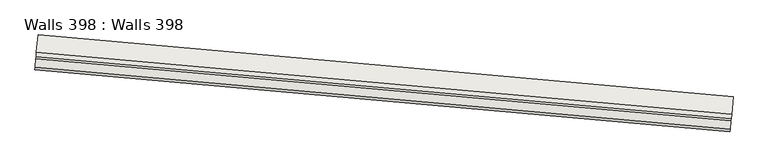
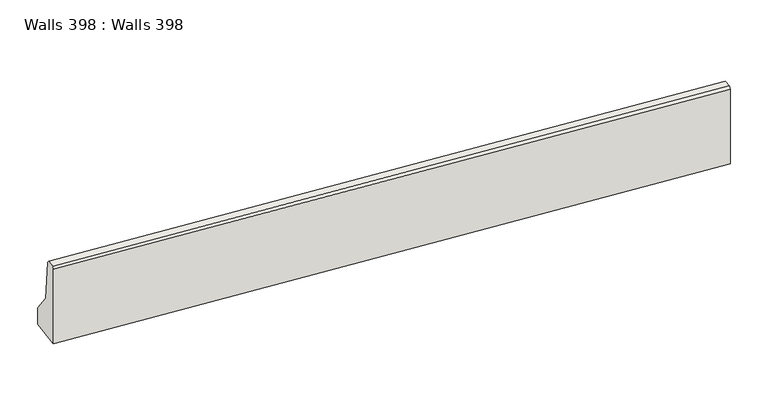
"""IFC4 building model written with IfcOpenShell, lengths in millimetres: wall geometry, Walls 398 : Walls 398."""

import ifcopenshell
import ifcopenshell.guid

model = None  # the IFC model being written
_history = None  # IfcOwnerHistory: only IFC2X3 demands one
_inside = {}  # id of a spatial element -> (the spatial element, [elements in it])
_under = {}  # id of a project, library or spatial element -> (it, [spatial elements below it])
_declared = {}  # id of a project -> (the project, [libraries it declares])
_typed = {}  # id of a type object -> (the type object, [elements of that type])
_made_of = {}  # id of a material, layer set ... -> (it, [elements and type objects made of it])


def new_model(schema):
    """Start an empty IFC model of exactly this schema.

    Asked for "IFC4X3", IfcOpenShell would pick the latest addendum, in which some entities
    have other attributes; the version numbers below select the first issue.
    IFC2X3 requires an IfcOwnerHistory on every rooted entity: one is made here for all.
    """
    global model, _history
    if schema == "IFC4X3":
        model = ifcopenshell.file(schema_version=(4, 3, 0, 0))
    else:
        model = ifcopenshell.file(schema=schema)
    _inside.clear()
    _under.clear()
    _declared.clear()
    _typed.clear()
    _made_of.clear()
    _history = None
    if model.schema == "IFC2X3":
        org = make("IfcOrganization", Name="unknown")
        user = make(
            "IfcPersonAndOrganization",
            ThePerson=make("IfcPerson", FamilyName="unknown"),
            TheOrganization=org,
        )
        app = make(
            "IfcApplication",
            ApplicationDeveloper=org,
            Version="unknown",
            ApplicationFullName="unknown",
            ApplicationIdentifier="unknown",
        )
        _history = make(
            "IfcOwnerHistory",
            OwningUser=user,
            OwningApplication=app,
            ChangeAction="ADDED",
            CreationDate=0,
        )
    return model


def make(cls, **values):
    """One entity of the class cls with the attributes given. An attribute that is None is left unset."""
    return model.create_entity(
        cls, **{name: value for name, value in values.items() if value is not None}
    )


def rooted(cls, **values):
    """An entity with a GlobalId (a new one), such as an element, a storey or a relation."""
    return make(cls, GlobalId=ifcopenshell.guid.new(), OwnerHistory=_history, **values)


def si_unit(unit_type, name, prefix=None):
    """IfcSIUnit, for example si_unit("LENGTHUNIT", "METRE", prefix="MILLI")."""
    return make("IfcSIUnit", UnitType=unit_type, Prefix=prefix, Name=name)


def assignment(units):
    """IfcUnitAssignment: the units of a project."""
    return None if units is None else make("IfcUnitAssignment", Units=units)


def point(xyz):
    """IfcCartesianPoint."""
    return None if xyz is None else make("IfcCartesianPoint", Coordinates=xyz)


def direction(xyz):
    """IfcDirection."""
    return None if xyz is None else make("IfcDirection", DirectionRatios=xyz)


def frame(location, z_axis=None, x_axis=None):
    """IfcAxis2Placement3D, a coordinate frame: its origin and axes. An axis left out is left unset."""
    return make(
        "IfcAxis2Placement3D",
        Location=point(location),
        Axis=direction(z_axis),
        RefDirection=direction(x_axis),
    )


def origin():
    """The frame at (0, 0, 0) with its axes left unset."""
    return frame((0.0, 0.0, 0.0))


def place(relative_to, where):
    """IfcLocalPlacement: puts the frame where relative to a parent placement (None: the world)."""
    return make(
        "IfcLocalPlacement", PlacementRelTo=relative_to, RelativePlacement=where
    )


def context(
    kind, dimensions, precision=None, world=None, true_north=None, identifier=None
):
    """IfcGeometricRepresentationContext, for example the 3D "Model" context."""
    return make(
        "IfcGeometricRepresentationContext",
        ContextIdentifier=identifier,
        ContextType=kind,
        CoordinateSpaceDimension=dimensions,
        Precision=precision,
        WorldCoordinateSystem=world,
        TrueNorth=true_north,
    )


def project(units=None, contexts=None):
    """IfcProject with its units and contexts."""
    return rooted(
        "IfcProject",
        Name="project",
        RepresentationContexts=contexts,
        UnitsInContext=assignment(units),
    )


def spatial(cls, under=None, at=None, **own):
    """A site, building, storey or space (cls), placed at a placement, below another one or the project."""
    s = rooted(cls, ObjectPlacement=at, **own)
    if under is not None:
        _under.setdefault(under.id(), (under, []))[1].append(s)
    return s


def polyline(points):
    """IfcPolyline through the points."""
    return make("IfcPolyline", Points=[point(p) for p in points])


def outline(outer, holes=None, kind="AREA"):
    """IfcArbitraryClosedProfileDef: a profile drawn as a closed curve; with holes, ...WithVoids."""
    if holes is None:
        return make("IfcArbitraryClosedProfileDef", ProfileType=kind, OuterCurve=outer)
    return make(
        "IfcArbitraryProfileDefWithVoids",
        ProfileType=kind,
        OuterCurve=outer,
        InnerCurves=holes,
    )


def extrude(swept, where, along, depth):
    """IfcExtrudedAreaSolid: the profile swept, set in the frame where, extruded along a direction by depth."""
    return make(
        "IfcExtrudedAreaSolid",
        SweptArea=swept,
        Position=where,
        ExtrudedDirection=direction(along),
        Depth=depth,
    )


def shape(context_of_items, identifier, shape_type, items):
    """IfcShapeRepresentation: the items that make up one representation, for example the "Body"."""
    return make(
        "IfcShapeRepresentation",
        ContextOfItems=context_of_items,
        RepresentationIdentifier=identifier,
        RepresentationType=shape_type,
        Items=items,
    )


def source(mapping_origin, context_of_items, identifier, shape_type, items):
    """IfcRepresentationMap: a shape defined once, which mapped items show again and again."""
    return make(
        "IfcRepresentationMap",
        MappingOrigin=mapping_origin,
        MappedRepresentation=shape(context_of_items, identifier, shape_type, items),
    )


def transform(
    local_origin,
    x_axis=None,
    y_axis=None,
    z_axis=None,
    scale=None,
    scale2=None,
    scale3=None,
    uniform=True,
):
    """IfcCartesianTransformationOperator3D, or its non-uniform kind. x_axis, y_axis, z_axis: its Axis1, 2, 3."""
    if uniform:
        return make(
            "IfcCartesianTransformationOperator3D",
            Axis1=direction(x_axis),
            Axis2=direction(y_axis),
            LocalOrigin=point(local_origin),
            Scale=scale,
            Axis3=direction(z_axis),
        )
    return make(
        "IfcCartesianTransformationOperator3DnonUniform",
        Axis1=direction(x_axis),
        Axis2=direction(y_axis),
        LocalOrigin=point(local_origin),
        Scale=scale,
        Axis3=direction(z_axis),
        Scale2=scale2,
        Scale3=scale3,
    )


def mapped(mapping_source, mapping_target):
    """IfcMappedItem: shows the shape of a source again, moved by a transform."""
    return make(
        "IfcMappedItem", MappingSource=mapping_source, MappingTarget=mapping_target
    )


def made_of(thing, what):
    """Note that an element or type object is made of a material, layer set ...; save() writes the relation."""
    if what is not None:
        _made_of.setdefault(what.id(), (what, []))[1].append(thing)
    return thing


def element(
    cls,
    number,
    at=None,
    inside=None,
    cuts=None,
    type_object=None,
    material=None,
    context=None,
    identifier="Body",
    shape_type=None,
    held_by="IfcProductDefinitionShape",
    body=None,
    shapes=None,
    **own,
):
    """One element of the class cls, such as IfcWall. Its Tag is "e" and its number.

    at: its placement. inside: the storey or other place that contains it. cuts: it is an
    opening in that element (IfcRelVoidsElement). A single representation is given by context,
    identifier, shape_type and body (its items); several are given by shapes. held_by: the class
    of the entity that holds the representations. save() writes the other relations.
    """
    e = rooted(cls, Tag="e%d" % number, ObjectPlacement=at, **own)
    if body is not None:
        shapes = [shape(context, identifier, shape_type, body)]
    if shapes is not None:
        e.Representation = make(held_by, Representations=shapes)
    if inside is not None:
        _inside.setdefault(inside.id(), (inside, []))[1].append(e)
    if cuts is not None:
        rooted(
            "IfcRelVoidsElement", RelatingBuildingElement=cuts, RelatedOpeningElement=e
        )
    if type_object is not None:
        _typed.setdefault(type_object.id(), (type_object, []))[1].append(e)
    return made_of(e, material)


def aggregate(whole, parts):
    """IfcRelAggregates: a whole, such as a stair, and the parts it consists of."""
    return rooted("IfcRelAggregates", RelatingObject=whole, RelatedObjects=parts)


def save(model, path):
    """Write the relations noted so far, then the file.

    IfcRelAggregates (storeys below a building ...), IfcRelContainedInSpatialStructure (elements
    in a storey), IfcRelDefinesByType, IfcRelAssociatesMaterial and IfcRelDeclares: one each for
    every whole, place, type object, material and project.
    """
    for whole, parts in _under.values():
        aggregate(whole, parts)
    for where, things in _inside.values():
        rooted(
            "IfcRelContainedInSpatialStructure",
            RelatedElements=things,
            RelatingStructure=where,
        )
    for kind, things in _typed.values():
        rooted("IfcRelDefinesByType", RelatedObjects=things, RelatingType=kind)
    for what, things in _made_of.values():
        rooted("IfcRelAssociatesMaterial", RelatedObjects=things, RelatingMaterial=what)
    for by, libraries in _declared.values():
        rooted("IfcRelDeclares", RelatingContext=by, RelatedDefinitions=libraries)
    model.write(path)


def walls_398_walls_398_2024eadc(model_context):
    return source(origin(), model_context, "Body", "SweptSolid", [
        extrude(outline(polyline([(638180.0, 400.0), (638430.0, 200.0), (638935.0, 149.9999999), (638960.0, 125.0), (638960.0, 25.0), (638935.0, 0.0), (637960.0, 0.0), (637960.0, 400.0), (638180.0, 400.0)])), frame((-571079.4030643, -428203.7398412, 0.0), z_axis=(-0.9960550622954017, 0.08873732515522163, 0.0), x_axis=(0.0, 0.0, 1.0)), (0.0, 0.0, 1.0), 7999.9999999),
    ])


if __name__ == "__main__":
    model = new_model("IFC4")
    model_context = context("Model", 3, world=origin())
    ifc_project = project(units=[si_unit("LENGTHUNIT", "METRE", prefix="MILLI")], contexts=[model_context])
    site = spatial("IfcSite", under=ifc_project)
    building = spatial("IfcBuilding", under=site)
    placement = place(None, origin())
    walls_398_walls_398_shape = walls_398_walls_398_2024eadc(model_context)
    element("IfcWall", 1, ObjectType="Walls 398 : Walls 398", at=placement, inside=building, context=model_context, shape_type="MappedRepresentation", body=[
        mapped(walls_398_walls_398_shape, transform((0.0, 0.0, 0.0), x_axis=(1.0, 0.0, 0.0), y_axis=(0.0, 1.0, 0.0), z_axis=(0.0, 0.0, 1.0))),
    ])
    save(model, "model.ifc")
